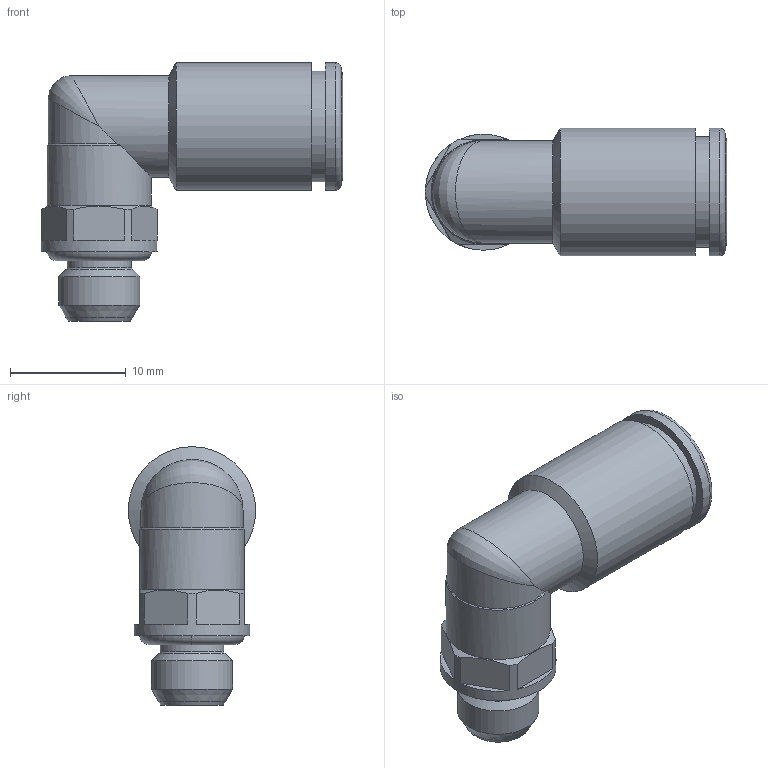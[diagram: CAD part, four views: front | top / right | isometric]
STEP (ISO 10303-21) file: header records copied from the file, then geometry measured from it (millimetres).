
FILE_DESCRIPTION(('Bauteilbeschreibung','HiCAD-Model','HiCAD-STEP-TRANSLATION','Bauteilbeschreibung'),'2;1');
FILE_NAME('B:/ABGLEICH/ZEICHNUNGEN/STEP FÜR INTERNET/STEP/IPSO 022/202217_IPSO_022_6_M7.STP','2012-02-06T14:29:51+00:00',('Konstrukteur'),('Konstrukteur Firma GmbH'),' HiCAD neXt 2008, Step 3.1.1401.2J ','HiCAD neXt 2008','confidential');
FILE_SCHEMA(('AUTOMOTIVE_DESIGN { 1 2 10303 214 0 1 1 1 }'));
Length unit declared in the file: millimetre
Products named in the file (7): A02217_IPSO_022_6_M7; OR 5_28X1_78; DR6_1_NEU; R202215_N2; A14604_N2; A146040N2; DIN 13_M7
Assembly tree (6 placements, depth 3):
  A02217_IPSO_022_6_M7
    OR 5_28X1_78
    DR6_1_NEU
    R202215_N2
    A14604_N2
    A146040N2
      DIN 13_M7
Bounding box: 26 x 11 x 22.3 mm (x, y, z)
Volume: 1745.6 mm3; surface area: 2953.4 mm2
Topology: 5 solids, 5 shells, 77 faces, 176 edges, 108 vertices
Faces by surface type: plane 25, cylinder 23, cone 21, torus 7, bspline 1
Full cylindrical faces by diameter (mm): 3.5 x1, 4 x1, 5.5 x1, 5.773 x2, 6.1 x1, 6.2 x1, 6.8 x2, 7 x1, 7.85 x1, 7.9 x1, 8.3 x1, 8.8 x1, 9 x2, 9.5 x1, 9.6 x1, 10 x1, 11 x2
Entity records: 3580 total; most frequent: CARTESIAN_POINT 1419, DIRECTION 354, ORIENTED_EDGE 228, AXIS2_PLACEMENT_3D 167, EDGE_LOOP 133, EDGE_CURVE 114, COLOUR_RGB 102, PRESENTATION_STYLE_ASSIGNMENT 102
